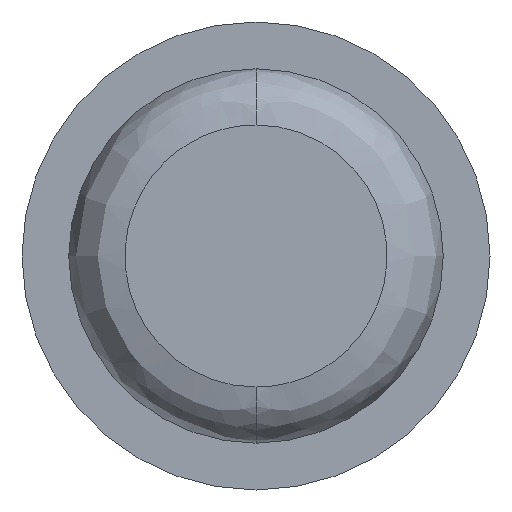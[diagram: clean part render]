
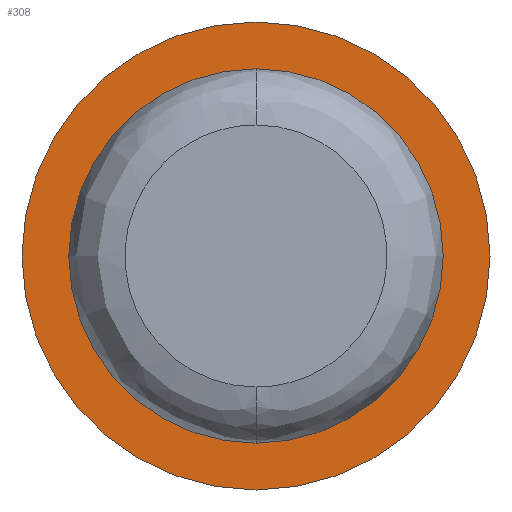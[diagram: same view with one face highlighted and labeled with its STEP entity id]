
A CAD part, front view. The second image highlights one B-rep face of the part: STEP entity #308.
In plain terms, the highlighted planar face has unit normal (0, -1, 0).
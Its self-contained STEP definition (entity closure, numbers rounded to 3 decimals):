
#1 = EDGE_CURVE ( 'NONE', #292, #229, #37, .T. ) ;
#37 = CIRCLE ( 'NONE', #495, 1. ) ;
#40 = CARTESIAN_POINT ( 'NONE',  ( 0., 2.5, 1.25 ) ) ;
#69 = EDGE_CURVE ( 'NONE', #395, #450, #194, .T. ) ;
#82 = CIRCLE ( 'NONE', #451, 1. ) ;
#95 = PLANE ( 'NONE',  #116 ) ;
#101 = DIRECTION ( 'NONE',  ( 0., -1., 0. ) ) ;
#114 = AXIS2_PLACEMENT_3D ( 'NONE', #260, #174, #305 ) ;
#116 = AXIS2_PLACEMENT_3D ( 'NONE', #426, #101, #422 ) ;
#119 = DIRECTION ( 'NONE',  ( 0., 0., -1. ) ) ;
#135 = FACE_BOUND ( 'NONE', #393, .T. ) ;
#158 = DIRECTION ( 'NONE',  ( 0., 0., -1. ) ) ;
#174 = DIRECTION ( 'NONE',  ( 0., -1., 0. ) ) ;
#179 = CIRCLE ( 'NONE', #114, 1.25 ) ;
#194 = CIRCLE ( 'NONE', #264, 1.25 ) ;
#229 = VERTEX_POINT ( 'NONE', #293 ) ;
#236 = ORIENTED_EDGE ( 'NONE', *, *, #465, .F. ) ;
#244 = ORIENTED_EDGE ( 'NONE', *, *, #348, .T. ) ;
#252 = DIRECTION ( 'NONE',  ( 0., -1., 0. ) ) ;
#260 = CARTESIAN_POINT ( 'NONE',  ( 0., 2.5, 0. ) ) ;
#261 = ORIENTED_EDGE ( 'NONE', *, *, #1, .F. ) ;
#264 = AXIS2_PLACEMENT_3D ( 'NONE', #283, #323, #158 ) ;
#282 = DIRECTION ( 'NONE',  ( 0., -1., 0. ) ) ;
#283 = CARTESIAN_POINT ( 'NONE',  ( 0., 2.5, 0. ) ) ;
#286 = EDGE_LOOP ( 'NONE', ( #490, #244 ) ) ;
#292 = VERTEX_POINT ( 'NONE', #459 ) ;
#293 = CARTESIAN_POINT ( 'NONE',  ( 0., 2.5, -1. ) ) ;
#305 = DIRECTION ( 'NONE',  ( 0., 0., -1. ) ) ;
#308 = ADVANCED_FACE ( 'NONE', ( #135, #464 ), #95, .T. ) ;
#323 = DIRECTION ( 'NONE',  ( 0., -1., 0. ) ) ;
#347 = CARTESIAN_POINT ( 'NONE',  ( 0., 2.5, -1.25 ) ) ;
#348 = EDGE_CURVE ( 'NONE', #450, #395, #179, .T. ) ;
#350 = CARTESIAN_POINT ( 'NONE',  ( 0., 2.5, 0. ) ) ;
#393 = EDGE_LOOP ( 'NONE', ( #236, #261 ) ) ;
#395 = VERTEX_POINT ( 'NONE', #347 ) ;
#422 = DIRECTION ( 'NONE',  ( 0., 0., -1. ) ) ;
#426 = CARTESIAN_POINT ( 'NONE',  ( 1., 2.5, 0. ) ) ;
#446 = CARTESIAN_POINT ( 'NONE',  ( 0., 2.5, 0. ) ) ;
#450 = VERTEX_POINT ( 'NONE', #40 ) ;
#451 = AXIS2_PLACEMENT_3D ( 'NONE', #350, #282, #526 ) ;
#459 = CARTESIAN_POINT ( 'NONE',  ( 0., 2.5, 1. ) ) ;
#464 = FACE_OUTER_BOUND ( 'NONE', #286, .T. ) ;
#465 = EDGE_CURVE ( 'NONE', #229, #292, #82, .T. ) ;
#490 = ORIENTED_EDGE ( 'NONE', *, *, #69, .T. ) ;
#495 = AXIS2_PLACEMENT_3D ( 'NONE', #446, #252, #119 ) ;
#526 = DIRECTION ( 'NONE',  ( 0., 0., -1. ) ) ;
